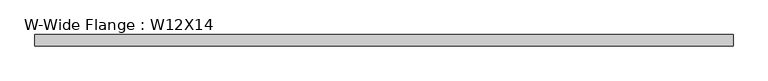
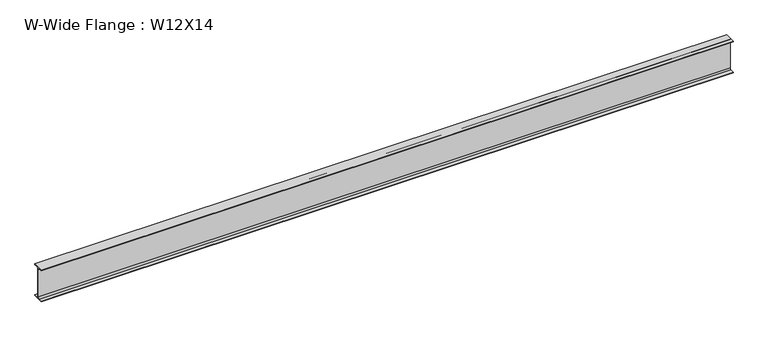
"""IFC4 building model written with IfcOpenShell, lengths in millimetres: beam geometry, W-Wide Flange : W12X14."""

from ifc_helpers import new_model, si_unit, point, frame, frame_2d, origin, place, context, project, spatial, polyline, circle_curve, trimmed, segment, composite_curve, outline, extrude, source, transform, mapped, element, save


def w_wide_flange_w12x14_b39f6d49(model_context):
    return source(origin(), model_context, "Body", "SweptSolid", [
        extrude(outline(composite_curve([segment(polyline([(50.419, -145.415), (50.419, -151.13), (-50.419, -151.13), (-50.419, -145.415), (-15.875, -145.415)]), True, "CONTINUOUS"), segment(trimmed(circle_curve(frame_2d((-15.875, -132.08)), 13.335), [point((-15.875, -145.415))], [point((-2.54, -132.08))], True, "CARTESIAN"), True, "CONTINUOUS"), segment(polyline([(-2.54, -132.08), (-2.54, 132.08)]), True, "CONTINUOUS"), segment(trimmed(circle_curve(frame_2d((-15.875, 132.08)), 13.335), [point((-2.54, 132.08))], [point((-15.875, 145.415))], True, "CARTESIAN"), True, "CONTINUOUS"), segment(polyline([(-15.875, 145.415), (-50.419, 145.415), (-50.419, 151.13), (50.419, 151.13), (50.419, 145.415), (15.875, 145.415)]), True, "CONTINUOUS"), segment(trimmed(circle_curve(frame_2d((15.875, 132.08)), 13.335), [point((15.875, 145.415))], [point((2.54, 132.08))], True, "CARTESIAN"), True, "CONTINUOUS"), segment(polyline([(2.54, 132.08), (2.54, -132.08)]), True, "CONTINUOUS"), segment(trimmed(circle_curve(frame_2d((15.875, -132.08)), 13.335), [point((2.54, -132.08))], [point((15.875, -145.415))], True, "CARTESIAN"), True, "CONTINUOUS"), segment(polyline([(15.875, -145.415), (50.419, -145.415)]), True, "CONTINUOUS")], self_intersect=False)), frame((-3101.18125, 0.0, 0.0), z_axis=(1.0, 0.0, 0.0), x_axis=(0.0, 1.0, 0.0)), (0.0, 0.0, 1.0), 6284.9125),
    ])


if __name__ == "__main__":
    model = new_model("IFC4")
    model_context = context("Model", 3, world=origin())
    ifc_project = project(units=[si_unit("LENGTHUNIT", "METRE", prefix="MILLI")], contexts=[model_context])
    site = spatial("IfcSite", under=ifc_project)
    building = spatial("IfcBuilding", under=site)
    placement = place(None, origin())
    w_wide_flange_w12x14_shape = w_wide_flange_w12x14_b39f6d49(model_context)
    element("IfcBeam", 1, ObjectType="W-Wide Flange : W12X14", at=placement, inside=building, context=model_context, shape_type="MappedRepresentation", body=[
        mapped(w_wide_flange_w12x14_shape, transform((0.0, 0.0, 0.0), x_axis=(1.0, 0.0, 0.0), y_axis=(0.0, 1.0, 0.0), z_axis=(0.0, 0.0, 1.0))),
    ])
    save(model, "model.ifc")
